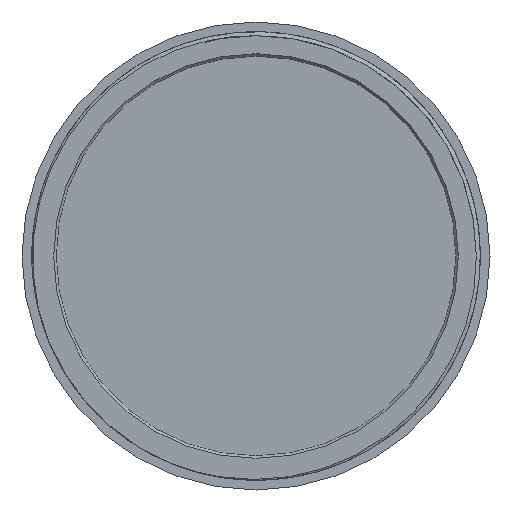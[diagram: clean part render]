
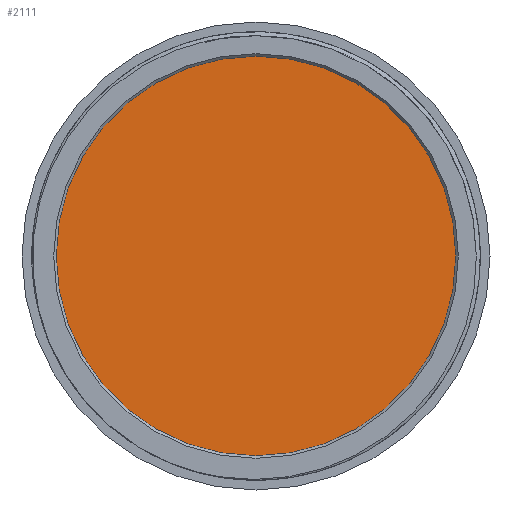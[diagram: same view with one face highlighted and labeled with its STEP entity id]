
A CAD part, front view. The second image highlights one B-rep face of the part: STEP entity #2111.
In plain terms, the highlighted planar face has unit normal (0, -1, 0).
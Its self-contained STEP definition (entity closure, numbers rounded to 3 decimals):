
#56 = VERTEX_POINT ( 'NONE', #830 ) ;
#456 = PLANE ( 'NONE',  #1939 ) ;
#491 = DIRECTION ( 'NONE',  ( 0., 0., 1. ) ) ;
#830 = CARTESIAN_POINT ( 'NONE',  ( 0., 2.3, 21.25 ) ) ;
#961 = CARTESIAN_POINT ( 'NONE',  ( 0., 2.3, 0. ) ) ;
#1049 = EDGE_LOOP ( 'NONE', ( #2290, #1869 ) ) ;
#1068 = DIRECTION ( 'NONE',  ( 0., 1., 0. ) ) ;
#1076 = CARTESIAN_POINT ( 'NONE',  ( 0., 2.3, -21.25 ) ) ;
#1196 = AXIS2_PLACEMENT_3D ( 'NONE', #2813, #2525, #1534 ) ;
#1300 = CIRCLE ( 'NONE', #2198, 21.25 ) ;
#1534 = DIRECTION ( 'NONE',  ( 0., 0., 1. ) ) ;
#1624 = CIRCLE ( 'NONE', #1196, 21.25 ) ;
#1869 = ORIENTED_EDGE ( 'NONE', *, *, #2472, .F. ) ;
#1939 = AXIS2_PLACEMENT_3D ( 'NONE', #961, #1947, #1982 ) ;
#1947 = DIRECTION ( 'NONE',  ( 0., 1., 0. ) ) ;
#1982 = DIRECTION ( 'NONE',  ( 0., 0., 1. ) ) ;
#2111 = ADVANCED_FACE ( 'NONE', ( #3228 ), #456, .F. ) ;
#2198 = AXIS2_PLACEMENT_3D ( 'NONE', #2596, #1068, #491 ) ;
#2290 = ORIENTED_EDGE ( 'NONE', *, *, #2416, .F. ) ;
#2416 = EDGE_CURVE ( 'NONE', #2579, #56, #1300, .T. ) ;
#2472 = EDGE_CURVE ( 'NONE', #56, #2579, #1624, .T. ) ;
#2525 = DIRECTION ( 'NONE',  ( 0., 1., 0. ) ) ;
#2579 = VERTEX_POINT ( 'NONE', #1076 ) ;
#2596 = CARTESIAN_POINT ( 'NONE',  ( 0., 2.3, 0. ) ) ;
#2813 = CARTESIAN_POINT ( 'NONE',  ( 0., 2.3, 0. ) ) ;
#3228 = FACE_OUTER_BOUND ( 'NONE', #1049, .T. ) ;
